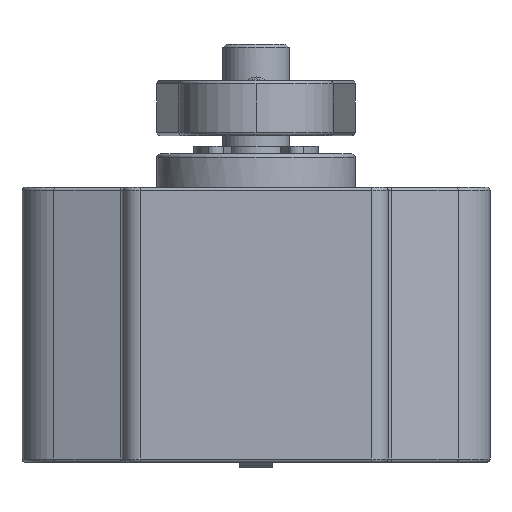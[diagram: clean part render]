
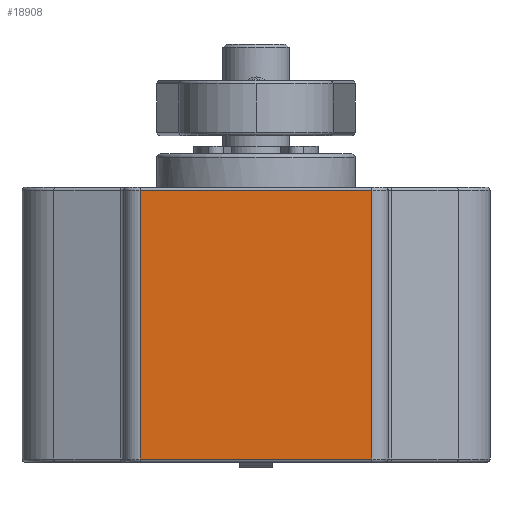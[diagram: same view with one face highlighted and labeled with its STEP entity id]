
A CAD part, front view. The second image highlights one B-rep face of the part: STEP entity #18908.
In plain terms, the highlighted planar face has unit normal (0, -1, 0).
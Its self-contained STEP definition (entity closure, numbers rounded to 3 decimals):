
#225 = VECTOR ( 'NONE', #20121, 1000. ) ;
#3048 = LINE ( 'NONE', #11339, #11070 ) ;
#5757 = LINE ( 'NONE', #11885, #25431 ) ;
#6625 = CARTESIAN_POINT ( 'NONE',  ( -10.5, -13., -27.7 ) ) ;
#8714 = CARTESIAN_POINT ( 'NONE',  ( 10.5, -13., -27.7 ) ) ;
#8879 = DIRECTION ( 'NONE',  ( 0., -1., 0. ) ) ;
#9573 = ORIENTED_EDGE ( 'NONE', *, *, #10231, .T. ) ;
#9582 = DIRECTION ( 'NONE',  ( 0., 0., -1. ) ) ;
#10174 = EDGE_CURVE ( 'NONE', #14103, #16677, #3048, .T. ) ;
#10231 = EDGE_CURVE ( 'NONE', #16677, #17016, #5757, .T. ) ;
#11070 = VECTOR ( 'NONE', #12988, 1000. ) ;
#11339 = CARTESIAN_POINT ( 'NONE',  ( -10.5, -13., -3.3 ) ) ;
#11885 = CARTESIAN_POINT ( 'NONE',  ( -10.5, -13., -28. ) ) ;
#12988 = DIRECTION ( 'NONE',  ( -1., 0., 0. ) ) ;
#13241 = VECTOR ( 'NONE', #17762, 1000. ) ;
#14103 = VERTEX_POINT ( 'NONE', #26018 ) ;
#14680 = EDGE_LOOP ( 'NONE', ( #21601, #15793, #9573, #25490 ) ) ;
#15401 = PLANE ( 'NONE',  #25541 ) ;
#15793 = ORIENTED_EDGE ( 'NONE', *, *, #10174, .T. ) ;
#15917 = LINE ( 'NONE', #24219, #225 ) ;
#16111 = CARTESIAN_POINT ( 'NONE',  ( 10.5, -13., -27.7 ) ) ;
#16677 = VERTEX_POINT ( 'NONE', #17137 ) ;
#16915 = DIRECTION ( 'NONE',  ( 0., 0., -1. ) ) ;
#17016 = VERTEX_POINT ( 'NONE', #6625 ) ;
#17137 = CARTESIAN_POINT ( 'NONE',  ( -10.5, -13., -3.3 ) ) ;
#17762 = DIRECTION ( 'NONE',  ( 1., 0., 0. ) ) ;
#18908 = ADVANCED_FACE ( 'NONE', ( #21657 ), #15401, .T. ) ;
#19230 = VERTEX_POINT ( 'NONE', #8714 ) ;
#20121 = DIRECTION ( 'NONE',  ( 0., 0., 1. ) ) ;
#21601 = ORIENTED_EDGE ( 'NONE', *, *, #26333, .T. ) ;
#21657 = FACE_OUTER_BOUND ( 'NONE', #14680, .T. ) ;
#22104 = LINE ( 'NONE', #16111, #13241 ) ;
#24219 = CARTESIAN_POINT ( 'NONE',  ( 10.5, -13., -28. ) ) ;
#25431 = VECTOR ( 'NONE', #9582, 1000. ) ;
#25490 = ORIENTED_EDGE ( 'NONE', *, *, #26488, .T. ) ;
#25541 = AXIS2_PLACEMENT_3D ( 'NONE', #25629, #8879, #16915 ) ;
#25629 = CARTESIAN_POINT ( 'NONE',  ( -12., -13., -28. ) ) ;
#26018 = CARTESIAN_POINT ( 'NONE',  ( 10.5, -13., -3.3 ) ) ;
#26333 = EDGE_CURVE ( 'NONE', #19230, #14103, #15917, .T. ) ;
#26488 = EDGE_CURVE ( 'NONE', #17016, #19230, #22104, .T. ) ;
